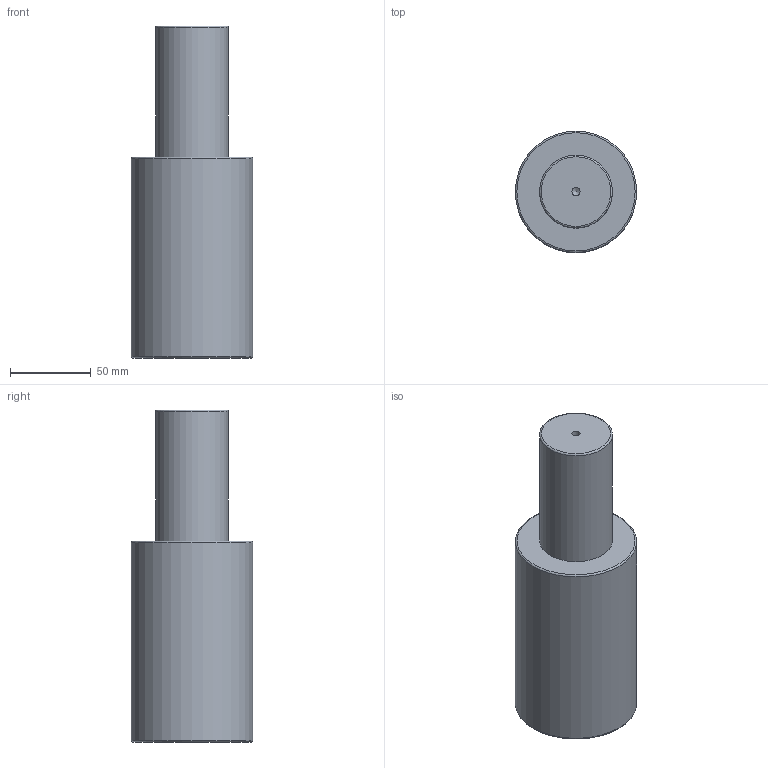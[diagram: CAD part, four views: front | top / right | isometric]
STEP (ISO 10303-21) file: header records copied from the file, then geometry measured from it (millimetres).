
FILE_DESCRIPTION(/* description */ (''),/* implementation_level */ '2;1');
FILE_NAME(/* name */ 'NV5-SMLX.75x80.stp',/* time_stamp */ '2018-08-31T16:08:28+02:00',/* author */ (''),/* organization */ (''),/* preprocessor_version */ 'ST-DEVELOPER v16',/* originating_system */ 'SIEMENS PLM Software NX 10.0',/* authorisation */ '');
FILE_SCHEMA (('AUTOMOTIVE_DESIGN { 1 0 10303 214 3 1 1 1 }'));
Length unit declared in the file: millimetre
Products named in the file (1): NV5-SMLX.75x80
Bounding box: 75 x 75 x 205 mm (x, y, z)
Volume: 674531.4 mm3; surface area: 50076.5 mm2
Topology: 1 solids, 1 shells, 12 faces, 24 edges, 15 vertices
Faces by surface type: cylinder 4, torus 3, plane 3, cone 2
Full cylindrical faces by diameter (mm): 5 x1, 10.3 x1, 45 x1, 75 x1
Entity records: 266 total; most frequent: DIRECTION 48, CARTESIAN_POINT 37, FACE_BOUND 24, AXIS2_PLACEMENT_3D 24, EDGE_LOOP 22, ORIENTED_EDGE 22, VERTEX_POINT 13, ADVANCED_FACE 12
